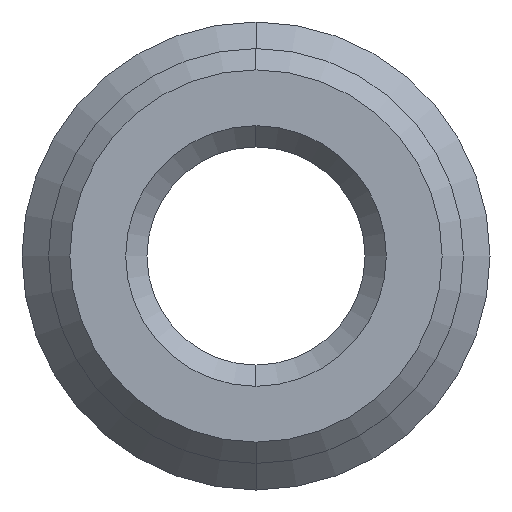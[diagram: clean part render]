
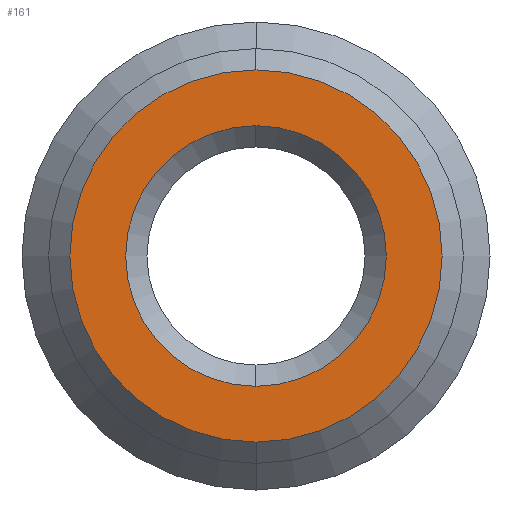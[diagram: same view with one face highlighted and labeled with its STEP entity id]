
A CAD part, left-side view. The second image highlights one B-rep face of the part: STEP entity #161.
In plain terms, the highlighted planar face has unit normal (-1, 0, 0).
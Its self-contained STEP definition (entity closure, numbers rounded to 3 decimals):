
#15 = DIRECTION ( 'NONE',  ( 0., 0., 1. ) ) ;
#55 = CARTESIAN_POINT ( 'NONE',  ( -2.85, 0., 0. ) ) ;
#59 = EDGE_CURVE ( 'NONE', #432, #1138, #1231, .T. ) ;
#96 = ORIENTED_EDGE ( 'NONE', *, *, #1075, .F. ) ;
#105 = CARTESIAN_POINT ( 'NONE',  ( -2.85, 0., 1.75 ) ) ;
#151 = AXIS2_PLACEMENT_3D ( 'NONE', #1204, #401, #15 ) ;
#161 = ADVANCED_FACE ( 'NONE', ( #496, #707 ), #1096, .F. ) ;
#241 = DIRECTION ( 'NONE',  ( 1., 0., 0. ) ) ;
#335 = EDGE_LOOP ( 'NONE', ( #519, #1014 ) ) ;
#340 = DIRECTION ( 'NONE',  ( 1., 0., 0. ) ) ;
#345 = CARTESIAN_POINT ( 'NONE',  ( -2.85, 0., 0. ) ) ;
#401 = DIRECTION ( 'NONE',  ( 1., 0., 0. ) ) ;
#424 = DIRECTION ( 'NONE',  ( 0., 0., 1. ) ) ;
#432 = VERTEX_POINT ( 'NONE', #1156 ) ;
#496 = FACE_BOUND ( 'NONE', #335, .T. ) ;
#519 = ORIENTED_EDGE ( 'NONE', *, *, #1222, .T. ) ;
#571 = AXIS2_PLACEMENT_3D ( 'NONE', #1245, #241, #857 ) ;
#676 = ORIENTED_EDGE ( 'NONE', *, *, #59, .F. ) ;
#707 = FACE_OUTER_BOUND ( 'NONE', #981, .T. ) ;
#730 = CARTESIAN_POINT ( 'NONE',  ( -2.85, 0., -1.225 ) ) ;
#740 = CIRCLE ( 'NONE', #571, 1.225 ) ;
#810 = CARTESIAN_POINT ( 'NONE',  ( -2.85, 0., 0. ) ) ;
#857 = DIRECTION ( 'NONE',  ( 0., 0., -1. ) ) ;
#867 = VERTEX_POINT ( 'NONE', #1119 ) ;
#870 = DIRECTION ( 'NONE',  ( 0., 0., 1. ) ) ;
#981 = EDGE_LOOP ( 'NONE', ( #96, #676 ) ) ;
#983 = CIRCLE ( 'NONE', #1190, 1.225 ) ;
#1002 = DIRECTION ( 'NONE',  ( 1., 0., 0. ) ) ;
#1006 = CIRCLE ( 'NONE', #1171, 1.75 ) ;
#1014 = ORIENTED_EDGE ( 'NONE', *, *, #1255, .T. ) ;
#1050 = DIRECTION ( 'NONE',  ( 0., 0., -1. ) ) ;
#1065 = AXIS2_PLACEMENT_3D ( 'NONE', #55, #1248, #870 ) ;
#1075 = EDGE_CURVE ( 'NONE', #1138, #432, #1006, .T. ) ;
#1096 = PLANE ( 'NONE',  #151 ) ;
#1119 = CARTESIAN_POINT ( 'NONE',  ( -2.85, 0., 1.225 ) ) ;
#1138 = VERTEX_POINT ( 'NONE', #105 ) ;
#1156 = CARTESIAN_POINT ( 'NONE',  ( -2.85, 0., -1.75 ) ) ;
#1171 = AXIS2_PLACEMENT_3D ( 'NONE', #810, #1002, #424 ) ;
#1190 = AXIS2_PLACEMENT_3D ( 'NONE', #345, #340, #1050 ) ;
#1204 = CARTESIAN_POINT ( 'NONE',  ( -2.85, 1.95, 0. ) ) ;
#1222 = EDGE_CURVE ( 'NONE', #867, #1274, #983, .T. ) ;
#1231 = CIRCLE ( 'NONE', #1065, 1.75 ) ;
#1245 = CARTESIAN_POINT ( 'NONE',  ( -2.85, 0., 0. ) ) ;
#1248 = DIRECTION ( 'NONE',  ( 1., 0., 0. ) ) ;
#1255 = EDGE_CURVE ( 'NONE', #1274, #867, #740, .T. ) ;
#1274 = VERTEX_POINT ( 'NONE', #730 ) ;
